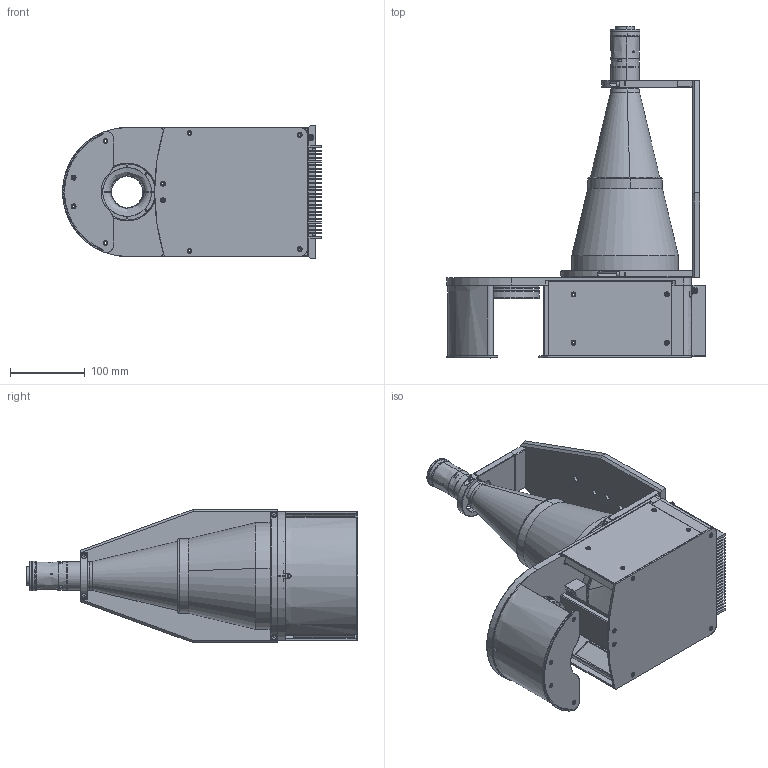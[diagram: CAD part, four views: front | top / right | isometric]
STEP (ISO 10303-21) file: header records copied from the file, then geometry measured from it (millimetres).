
FILE_DESCRIPTION(('LS-TCL-0035'),'2;1');
FILE_NAME('LS-TCL-0035.stp','2026-10-15T21:52:53',('LumaSpec Vision'),('LumaSpec Vision'),'LumaSpec Vision','LumaSpec Vision','');
FILE_SCHEMA(('AUTOMOTIVE_DESIGN { 1 0 10303 214 1 1 1 1 }'));
Length unit declared in the file: millimetre
Products named in the file (1004): LumaSpec Vision
Assembly tree (1003 placements, depth 2):
  LumaSpec Vision
    LumaSpec Vision
    LumaSpec Vision
    LumaSpec Vision
    LumaSpec Vision
    LumaSpec Vision
    LumaSpec Vision
    LumaSpec Vision
    LumaSpec Vision
    LumaSpec Vision
    LumaSpec Vision
    LumaSpec Vision
    LumaSpec Vision
    LumaSpec Vision
    LumaSpec Vision
    LumaSpec Vision
    LumaSpec Vision
    LumaSpec Vision
    LumaSpec Vision
    LumaSpec Vision
    LumaSpec Vision
    LumaSpec Vision
    LumaSpec Vision
    LumaSpec Vision
    LumaSpec Vision
    LumaSpec Vision
    LumaSpec Vision
    LumaSpec Vision
    LumaSpec Vision
    LumaSpec Vision
    LumaSpec Vision
    LumaSpec Vision
    LumaSpec Vision
    LumaSpec Vision
    LumaSpec Vision
    LumaSpec Vision
    LumaSpec Vision
    LumaSpec Vision
    LumaSpec Vision
    LumaSpec Vision
    LumaSpec Vision
    LumaSpec Vision
    LumaSpec Vision
    LumaSpec Vision
    LumaSpec Vision
    LumaSpec Vision
    LumaSpec Vision
    LumaSpec Vision
    LumaSpec Vision
    LumaSpec Vision
    LumaSpec Vision
    LumaSpec Vision
    LumaSpec Vision
    LumaSpec Vision
    LumaSpec Vision
    LumaSpec Vision
    LumaSpec Vision
    LumaSpec Vision
    LumaSpec Vision
    LumaSpec Vision
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Bounding box: 346.95 x 445.18 x 179 mm (x, y, z)
Surface area: 718420.3 mm2 (no closed solid volume)
Topology: 0 solids, 1003 shells, 1003 faces, 15891 edges, 15871 vertices
Faces by surface type: bspline 640, revolution 363
Entity records: 267078 total; most frequent: CARTESIAN_POINT 105515, B_SPLINE_CURVE_WITH_KNOTS 27518, ORIENTED_EDGE 15872, EDGE_CURVE 15872, VERTEX_POINT 15872, SURFACE_CURVE 15872, PCURVE 15872, DEFINITIONAL_REPRESENTATION 15872
